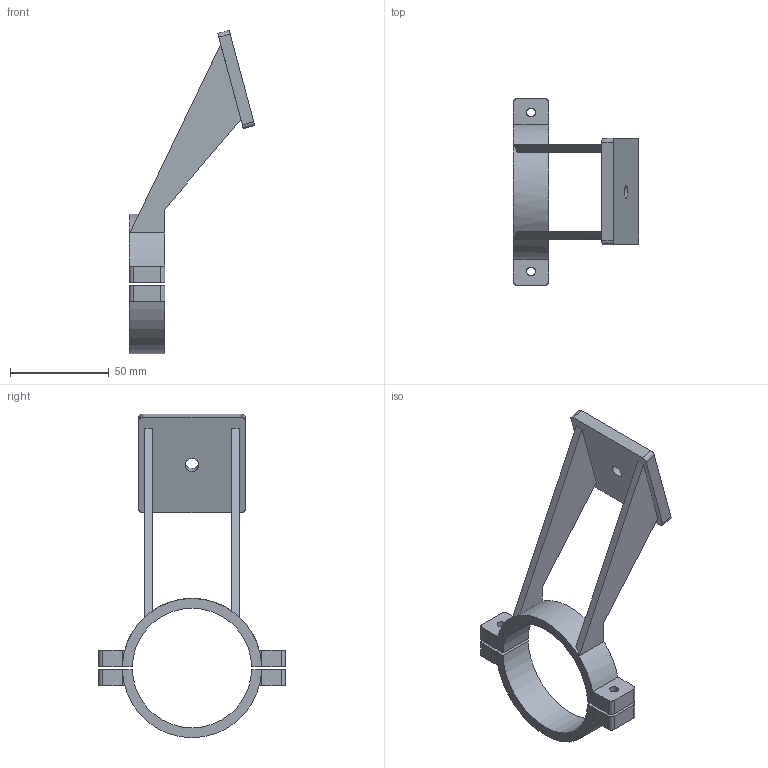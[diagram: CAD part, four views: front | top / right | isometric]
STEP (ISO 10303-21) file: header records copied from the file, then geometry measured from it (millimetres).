
FILE_DESCRIPTION(('Open CASCADE Model'),'2;1');
FILE_NAME('Open CASCADE Shape Model','2026-09-19T13:10:40',('Author'),( 'Open CASCADE'),'Open CASCADE STEP processor 7.9','Open CASCADE 7.9' ,'Unknown');
FILE_SCHEMA(('AUTOMOTIVE_DESIGN { 1 0 10303 214 1 1 1 1 }'));
Length unit declared in the file: millimetre
Products named in the file (3): fixed_webcam_60mm; upper; lower
Assembly tree (2 placements, depth 2):
  fixed_webcam_60mm
    upper
    lower
Bounding box: 63.63 x 94.6 x 163.93 mm (x, y, z)
Volume: 53769.7 mm3; surface area: 26726.1 mm2
Topology: 2 solids, 2 shells, 81 faces, 225 edges, 150 vertices
Faces by surface type: plane 52, cylinder 29
Full cylindrical faces by diameter (mm): 4.5 x4, 6.8 x1
Entity records: 6041 total; most frequent: CARTESIAN_POINT 1629, DIRECTION 775, LINE 451, VECTOR 451, ORIENTED_EDGE 450, PCURVE 450, DEFINITIONAL_REPRESENTATION 450, EDGE_CURVE 225
